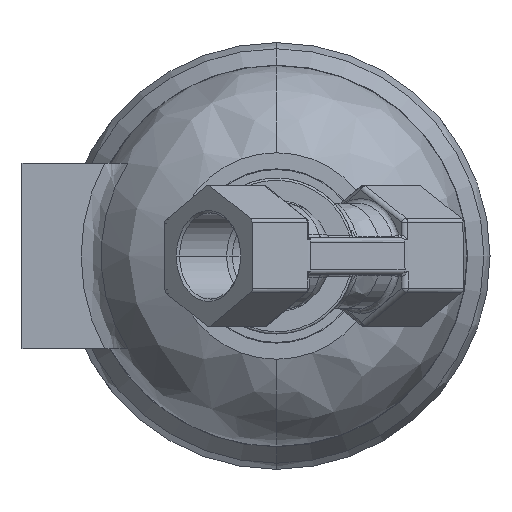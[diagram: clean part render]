
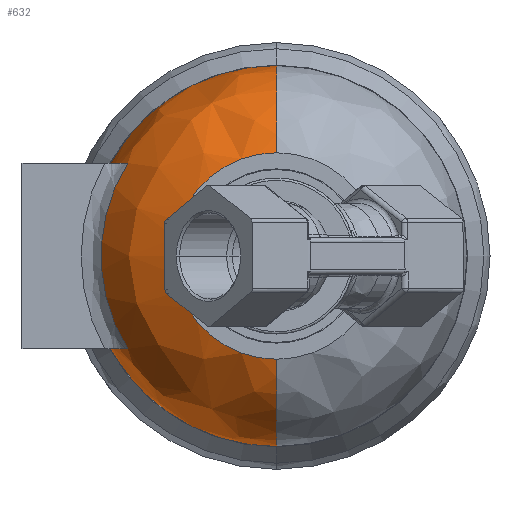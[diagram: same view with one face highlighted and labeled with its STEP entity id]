
A CAD part, front view. The second image highlights one B-rep face of the part: STEP entity #632.
In plain terms, the highlighted free-form (B-spline) face has degree [3, 3] with [4, 4] control points.
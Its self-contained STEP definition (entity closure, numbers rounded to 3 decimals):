
#10 = CARTESIAN_POINT ( 'NONE',  ( -32.448, 98.492, -20.25 ) ) ;
#45 = CARTESIAN_POINT ( 'NONE',  ( -83., 98.955, -41.5 ) ) ;
#49 = CARTESIAN_POINT ( 'NONE',  ( -33.598, 100.395, -20.25 ) ) ;
#97 = CARTESIAN_POINT ( 'NONE',  ( -83., 98.955, 41.5 ) ) ;
#112 = CARTESIAN_POINT ( 'NONE',  ( -33.059, 99.428, -20.25 ) ) ;
#153 = CARTESIAN_POINT ( 'NONE',  ( 0., 98.955, 41.5 ) ) ;
#174 = CARTESIAN_POINT ( 'NONE',  ( 0., 89.311, -34.171 ) ) ;
#211 = CARTESIAN_POINT ( 'NONE',  ( -68.341, 89.311, -34.171 ) ) ;
#227 = EDGE_CURVE ( 'NONE', #5601, #5536, #8452, .T. ) ;
#231 = CARTESIAN_POINT ( 'NONE',  ( -68.341, 89.311, 34.171 ) ) ;
#264 = CARTESIAN_POINT ( 'NONE',  ( 0., 89.311, 34.171 ) ) ;
#283 = CARTESIAN_POINT ( 'NONE',  ( 0., 86.068, -22.5 ) ) ;
#336 = CARTESIAN_POINT ( 'NONE',  ( -45., 86.068, -22.5 ) ) ;
#399 = CARTESIAN_POINT ( 'NONE',  ( 0., 86.068, 22.5 ) ) ;
#432 = CARTESIAN_POINT ( 'NONE',  ( -34.522, 102.42, 20.25 ) ) ;
#548 = CARTESIAN_POINT ( 'NONE',  ( -35.409, 105.018, -20.25 ) ) ;
#570 = DIRECTION ( 'NONE',  ( 0., 0., -1. ) ) ;
#632 = ADVANCED_FACE ( 'NONE', ( #9648 ), #10215, .T. ) ;
#835 = CARTESIAN_POINT ( 'NONE',  ( -45., 86.068, 22.5 ) ) ;
#971 = CARTESIAN_POINT ( 'NONE',  ( -36.224, 111.068, -20.25 ) ) ;
#1291 = CARTESIAN_POINT ( 'NONE',  ( -36.142, 108.842, -20.25 ) ) ;
#1397 = B_SPLINE_CURVE_WITH_KNOTS ( 'NONE', 3,
 ( #10671, #11808, #4706, #12974, #10972, #14729, #7777, #432, #8984, #1676, #10137, #2922 ),
 .UNSPECIFIED., .F., .F.,
 ( 4, 2, 2, 2, 2, 4 ),
 ( 0., 0.003, 0.007, 0.008, 0.01, 0.013 ),
 .UNSPECIFIED. ) ;
#1472 = ORIENTED_EDGE ( 'NONE', *, *, #227, .T. ) ;
#1676 = CARTESIAN_POINT ( 'NONE',  ( -33.6, 100.399, 20.25 ) ) ;
#1742 = CARTESIAN_POINT ( 'NONE',  ( -35.897, 107.194, -20.25 ) ) ;
#1785 = CARTESIAN_POINT ( 'NONE',  ( 0., 111.068, -41.5 ) ) ;
#1809 = VERTEX_POINT ( 'NONE', #4407 ) ;
#2086 = CIRCLE ( 'NONE', #11872, 25.947 ) ;
#2636 = CARTESIAN_POINT ( 'NONE',  ( -34.927, 103.424, -20.25 ) ) ;
#2688 = DIRECTION ( 'NONE',  ( -1., 0., 0. ) ) ;
#2922 = CARTESIAN_POINT ( 'NONE',  ( -32.448, 98.492, 20.25 ) ) ;
#3026 = CARTESIAN_POINT ( 'NONE',  ( -83., 111.068, -41.5 ) ) ;
#3240 = AXIS2_PLACEMENT_3D ( 'NONE', #13048, #6029, #14221 ) ;
#3783 = CARTESIAN_POINT ( 'NONE',  ( 0., 111.068, -15.553 ) ) ;
#3790 = CARTESIAN_POINT ( 'NONE',  ( -32.448, 98.492, 20.25 ) ) ;
#4033 = VERTEX_POINT ( 'NONE', #11934 ) ;
#4054 = CIRCLE ( 'NONE', #9606, 41.5 ) ;
#4056 = CARTESIAN_POINT ( 'NONE',  ( 0., 111.068, 0. ) ) ;
#4080 = CIRCLE ( 'NONE', #14132, 38.248 ) ;
#4245 = CARTESIAN_POINT ( 'NONE',  ( 0., 111.068, 41.5 ) ) ;
#4407 = CARTESIAN_POINT ( 'NONE',  ( 0., 111.068, 41.5 ) ) ;
#4439 = EDGE_CURVE ( 'NONE', #4033, #12602, #4625, .T. ) ;
#4465 = CARTESIAN_POINT ( 'NONE',  ( -36.224, 109.95, -20.25 ) ) ;
#4625 = CIRCLE ( 'NONE', #3240, 22.5 ) ;
#4706 = CARTESIAN_POINT ( 'NONE',  ( -36.142, 108.846, 20.25 ) ) ;
#4873 = CARTESIAN_POINT ( 'NONE',  ( -32.448, 98.492, -20.25 ) ) ;
#5010 = DIRECTION ( 'NONE',  ( 0., 0., -1. ) ) ;
#5276 = DIRECTION ( 'NONE',  ( 0., 0., -1. ) ) ;
#5347 = EDGE_CURVE ( 'NONE', #11999, #9525, #1397, .T. ) ;
#5412 = AXIS2_PLACEMENT_3D ( 'NONE', #9920, #2688, #11078 ) ;
#5474 = CARTESIAN_POINT ( 'NONE',  ( 0., 98.955, -41.5 ) ) ;
#5485 = ORIENTED_EDGE ( 'NONE', *, *, #7826, .F. ) ;
#5536 = VERTEX_POINT ( 'NONE', #971 ) ;
#5601 = VERTEX_POINT ( 'NONE', #4873 ) ;
#5637 = CARTESIAN_POINT ( 'NONE',  ( 0., 111.068, -41.5 ) ) ;
#5840 = VERTEX_POINT ( 'NONE', #5637 ) ;
#6029 = DIRECTION ( 'NONE',  ( 0., 1., 0. ) ) ;
#6388 = CARTESIAN_POINT ( 'NONE',  ( -35.796, 106.648, -20.25 ) ) ;
#6502 = DIRECTION ( 'NONE',  ( 0., 1., 0. ) ) ;
#6527 = CIRCLE ( 'NONE', #5412, 25.947 ) ;
#7207 = CARTESIAN_POINT ( 'NONE',  ( -35.552, 105.559, -20.25 ) ) ;
#7311 = ORIENTED_EDGE ( 'NONE', *, *, #4439, .T. ) ;
#7636 = CIRCLE ( 'NONE', #10520, 41.5 ) ;
#7724 = ORIENTED_EDGE ( 'NONE', *, *, #10556, .F. ) ;
#7777 = CARTESIAN_POINT ( 'NONE',  ( -34.92, 103.462, 20.25 ) ) ;
#7826 = EDGE_CURVE ( 'NONE', #4033, #5840, #2086, .T. ) ;
#7909 = DIRECTION ( 'NONE',  ( 0., -1., 0. ) ) ;
#7933 = CARTESIAN_POINT ( 'NONE',  ( -83., 111.068, 41.5 ) ) ;
#8226 = CARTESIAN_POINT ( 'NONE',  ( -36.224, 111.068, 20.25 ) ) ;
#8239 = EDGE_CURVE ( 'NONE', #9525, #5601, #4080, .T. ) ;
#8434 = ORIENTED_EDGE ( 'NONE', *, *, #5347, .T. ) ;
#8452 = B_SPLINE_CURVE_WITH_KNOTS ( 'NONE', 3,
 ( #10, #112, #49, #15031, #2636, #548, #7207, #6388, #1742, #1291, #4465, #12697 ),
 .UNSPECIFIED., .F., .F.,
 ( 4, 2, 2, 2, 2, 4 ),
 ( 0., 0.003, 0.007, 0.008, 0.01, 0.013 ),
 .UNSPECIFIED. ) ;
#8984 = CARTESIAN_POINT ( 'NONE',  ( -34.305, 101.908, 20.25 ) ) ;
#9525 = VERTEX_POINT ( 'NONE', #3790 ) ;
#9606 = AXIS2_PLACEMENT_3D ( 'NONE', #13486, #6502, #14655 ) ;
#9648 = FACE_OUTER_BOUND ( 'NONE', #13350, .T. ) ;
#9829 = CARTESIAN_POINT ( 'NONE',  ( 0., 86.068, 22.5 ) ) ;
#9843 = ORIENTED_EDGE ( 'NONE', *, *, #12188, .F. ) ;
#9920 = CARTESIAN_POINT ( 'NONE',  ( 0., 111.068, 15.553 ) ) ;
#10137 = CARTESIAN_POINT ( 'NONE',  ( -33.059, 99.428, 20.25 ) ) ;
#10215 =( BOUNDED_SURFACE ( )  B_SPLINE_SURFACE ( 3, 3, ( 
 ( #399, #835, #336, #283 ),
 ( #264, #231, #211, #174 ),
 ( #153, #97, #45, #5474 ),
 ( #4245, #7933, #3026, #1785 ) ),
 .UNSPECIFIED., .F., .F., .T. ) 
 B_SPLINE_SURFACE_WITH_KNOTS ( ( 4, 4 ),
 ( 4, 4 ),
 ( 0., 1. ),
 ( 0., 1. ),
 .UNSPECIFIED. ) 
 GEOMETRIC_REPRESENTATION_ITEM ( )  RATIONAL_B_SPLINE_SURFACE ( (
 ( 1., 0.333, 0.333, 1.),
 ( 0.864, 0.288, 0.288, 0.864),
 ( 0.864, 0.288, 0.288, 0.864),
 ( 1., 0.333, 0.333, 1.) ) ) 
 REPRESENTATION_ITEM ( '' )  SURFACE ( )  );
#10520 = AXIS2_PLACEMENT_3D ( 'NONE', #4056, #12346, #5276 ) ;
#10556 = EDGE_CURVE ( 'NONE', #5840, #5536, #4054, .T. ) ;
#10671 = CARTESIAN_POINT ( 'NONE',  ( -36.224, 111.068, 20.25 ) ) ;
#10972 = CARTESIAN_POINT ( 'NONE',  ( -35.58, 105.587, 20.25 ) ) ;
#11078 = DIRECTION ( 'NONE',  ( 0., 0., 1. ) ) ;
#11808 = CARTESIAN_POINT ( 'NONE',  ( -36.224, 109.95, 20.25 ) ) ;
#11872 = AXIS2_PLACEMENT_3D ( 'NONE', #3783, #12091, #5010 ) ;
#11934 = CARTESIAN_POINT ( 'NONE',  ( 0., 86.068, -22.5 ) ) ;
#11999 = VERTEX_POINT ( 'NONE', #8226 ) ;
#12091 = DIRECTION ( 'NONE',  ( 1., 0., 0. ) ) ;
#12188 = EDGE_CURVE ( 'NONE', #11999, #1809, #7636, .T. ) ;
#12346 = DIRECTION ( 'NONE',  ( 0., 1., 0. ) ) ;
#12602 = VERTEX_POINT ( 'NONE', #9829 ) ;
#12697 = CARTESIAN_POINT ( 'NONE',  ( -36.224, 111.068, -20.25 ) ) ;
#12974 = CARTESIAN_POINT ( 'NONE',  ( -35.819, 106.664, 20.25 ) ) ;
#13048 = CARTESIAN_POINT ( 'NONE',  ( 0., 86.068, 0. ) ) ;
#13350 = EDGE_LOOP ( 'NONE', ( #7311, #13962, #9843, #8434, #13495, #1472, #7724, #5485 ) ) ;
#13486 = CARTESIAN_POINT ( 'NONE',  ( 0., 111.068, 0. ) ) ;
#13495 = ORIENTED_EDGE ( 'NONE', *, *, #8239, .T. ) ;
#13962 = ORIENTED_EDGE ( 'NONE', *, *, #14961, .T. ) ;
#14132 = AXIS2_PLACEMENT_3D ( 'NONE', #14867, #7909, #570 ) ;
#14221 = DIRECTION ( 'NONE',  ( 0., 0., -1. ) ) ;
#14655 = DIRECTION ( 'NONE',  ( 0., 0., -1. ) ) ;
#14729 = CARTESIAN_POINT ( 'NONE',  ( -35.1, 103.993, 20.25 ) ) ;
#14867 = CARTESIAN_POINT ( 'NONE',  ( 0., 98.492, 0. ) ) ;
#14961 = EDGE_CURVE ( 'NONE', #12602, #1809, #6527, .T. ) ;
#15031 = CARTESIAN_POINT ( 'NONE',  ( -34.532, 102.393, -20.25 ) ) ;
